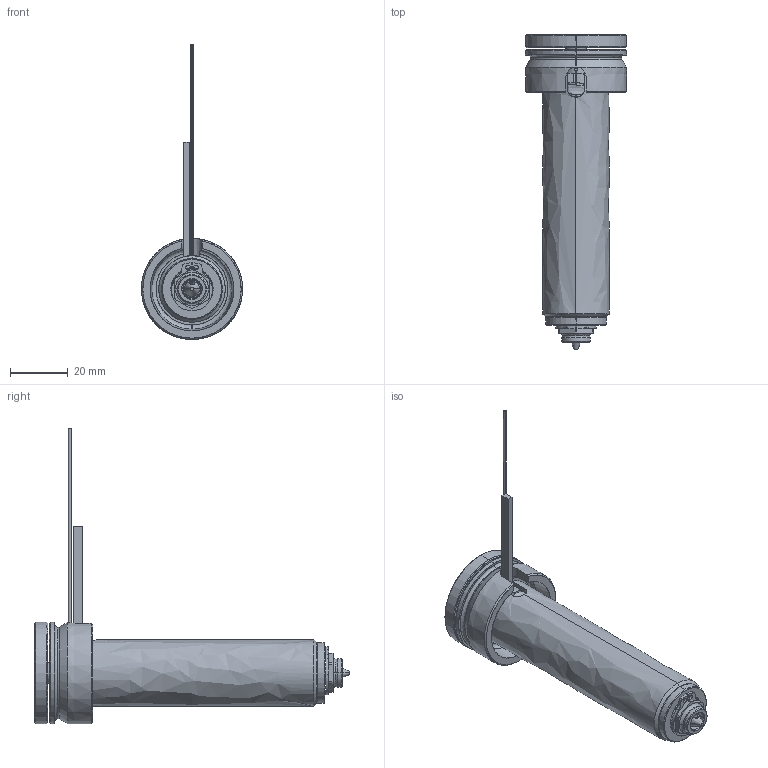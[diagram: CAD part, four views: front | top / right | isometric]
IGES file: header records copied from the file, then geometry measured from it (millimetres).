
Start section: SolidWorks IGES file using analytic representation for surfaces
Global section: file name: C:\Documents and Settings\ws-20\Desktop\TEM\UGEP3052-S-A-1 [Øf-1.10 ØC-7.0].IGS; native system: SolidWorks 2012; preprocessor: SolidWorks 2012; author: ws-20; date: 120402.143411; units: millimetre
Bounding box: 35 x 108.8 x 102.1 mm (x, y, z)
Surface area: 19307.6 mm2 (no closed solid volume)
Topology: 0 solids, 0 shells, 133 faces, 2048 edges, 2048 vertices
Faces by surface type: revolution 81, bspline 52
